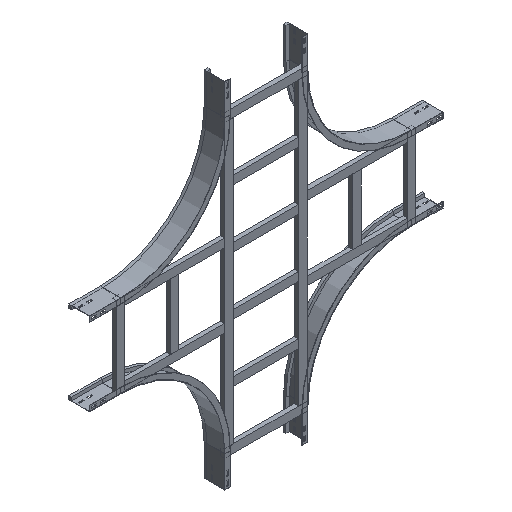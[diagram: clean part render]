
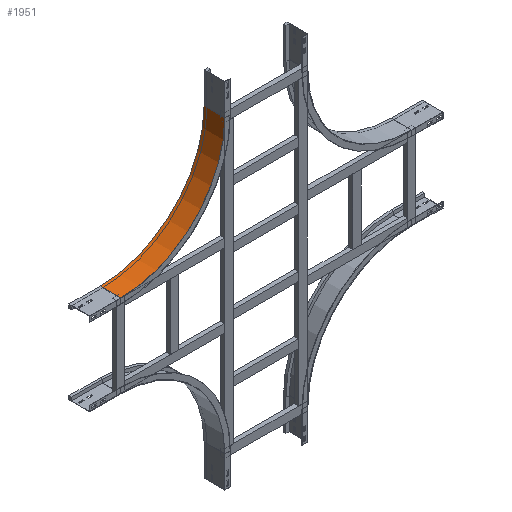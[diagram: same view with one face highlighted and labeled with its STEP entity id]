
A CAD part, isometric view. The second image highlights one B-rep face of the part: STEP entity #1951.
In plain terms, the highlighted cylindrical face has radius 500 mm (diameter 1000 mm), a partial arc.
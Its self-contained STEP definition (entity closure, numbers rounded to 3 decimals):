
#138 = VERTEX_POINT ( 'NONE', #2116 ) ;
#261 = CARTESIAN_POINT ( 'NONE',  ( 500., 0., -650. ) ) ;
#342 = EDGE_CURVE ( 'NONE', #2528, #138, #707, .T. ) ;
#480 = EDGE_CURVE ( 'NONE', #2349, #138, #1344, .T. ) ;
#557 = CARTESIAN_POINT ( 'NONE',  ( 0., 0., -150. ) ) ;
#601 = ORIENTED_EDGE ( 'NONE', *, *, #480, .F. ) ;
#608 = DIRECTION ( 'NONE',  ( 0., 1., 0. ) ) ;
#617 = CARTESIAN_POINT ( 'NONE',  ( 0., 100., -150. ) ) ;
#624 = CIRCLE ( 'NONE', #1379, 500. ) ;
#707 = LINE ( 'NONE', #261, #994 ) ;
#708 = CARTESIAN_POINT ( 'NONE',  ( 500., 0., -650. ) ) ;
#903 = EDGE_CURVE ( 'NONE', #1105, #2349, #2635, .T. ) ;
#981 = ORIENTED_EDGE ( 'NONE', *, *, #342, .T. ) ;
#994 = VECTOR ( 'NONE', #1576, 1000. ) ;
#997 = VECTOR ( 'NONE', #608, 1000. ) ;
#1007 = ORIENTED_EDGE ( 'NONE', *, *, #903, .F. ) ;
#1009 = EDGE_CURVE ( 'NONE', #1105, #2528, #624, .T. ) ;
#1099 = FACE_OUTER_BOUND ( 'NONE', #1835, .T. ) ;
#1105 = VERTEX_POINT ( 'NONE', #2788 ) ;
#1160 = ORIENTED_EDGE ( 'NONE', *, *, #1009, .T. ) ;
#1316 = DIRECTION ( 'NONE',  ( 0., -1., 0. ) ) ;
#1344 = CIRCLE ( 'NONE', #1957, 500. ) ;
#1379 = AXIS2_PLACEMENT_3D ( 'NONE', #1808, #2649, #2667 ) ;
#1568 = DIRECTION ( 'NONE',  ( 0., 0., -1. ) ) ;
#1576 = DIRECTION ( 'NONE',  ( 0., 1., 0. ) ) ;
#1808 = CARTESIAN_POINT ( 'NONE',  ( 500., 0., -150. ) ) ;
#1835 = EDGE_LOOP ( 'NONE', ( #601, #1007, #1160, #981 ) ) ;
#1845 = CARTESIAN_POINT ( 'NONE',  ( 500., 100., -150. ) ) ;
#1951 = ADVANCED_FACE ( 'NONE', ( #1099 ), #2693, .F. ) ;
#1957 = AXIS2_PLACEMENT_3D ( 'NONE', #1845, #2297, #2512 ) ;
#2041 = CARTESIAN_POINT ( 'NONE',  ( 500., 0., -150. ) ) ;
#2116 = CARTESIAN_POINT ( 'NONE',  ( 500., 100., -650. ) ) ;
#2297 = DIRECTION ( 'NONE',  ( 0., -1., 0. ) ) ;
#2349 = VERTEX_POINT ( 'NONE', #617 ) ;
#2512 = DIRECTION ( 'NONE',  ( -1., 0., 0. ) ) ;
#2528 = VERTEX_POINT ( 'NONE', #708 ) ;
#2635 = LINE ( 'NONE', #557, #997 ) ;
#2649 = DIRECTION ( 'NONE',  ( 0., -1., 0. ) ) ;
#2667 = DIRECTION ( 'NONE',  ( -1., 0., 0. ) ) ;
#2693 = CYLINDRICAL_SURFACE ( 'NONE', #2857, 500. ) ;
#2788 = CARTESIAN_POINT ( 'NONE',  ( 0., 0., -150. ) ) ;
#2857 = AXIS2_PLACEMENT_3D ( 'NONE', #2041, #1316, #1568 ) ;
